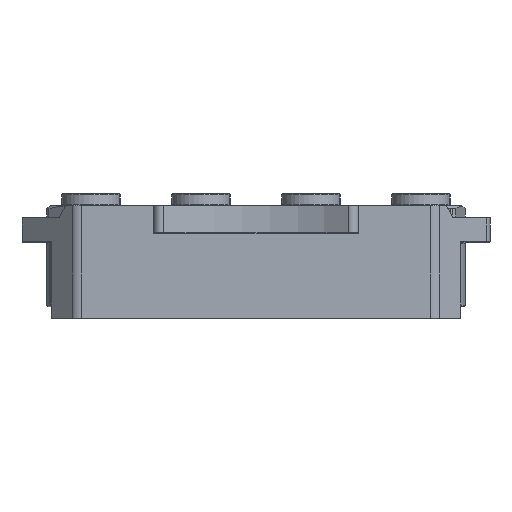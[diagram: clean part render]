
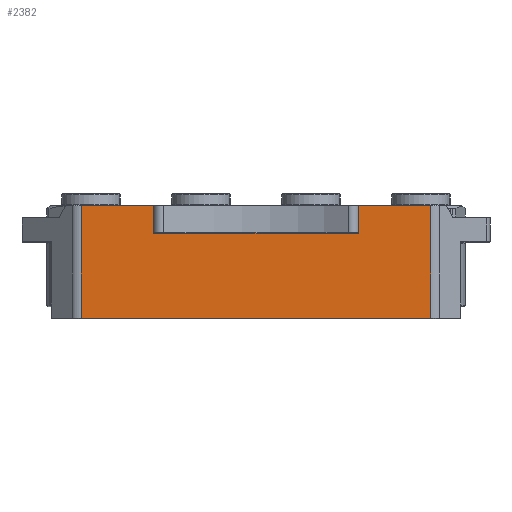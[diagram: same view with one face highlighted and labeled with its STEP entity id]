
A CAD part, front view. The second image highlights one B-rep face of the part: STEP entity #2382.
In plain terms, the highlighted planar face has unit normal (0, -1, 0).
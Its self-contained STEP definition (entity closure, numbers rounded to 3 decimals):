
#2382=ADVANCED_FACE('',(#4085),#3564,.T.);
#3564=PLANE('',#19819);
#4085=FACE_OUTER_BOUND('',#5212,.T.);
#5212=EDGE_LOOP('',(#6610,#6611,#6612,#6613,#6614,#6615,#6616,#6617,#6618,
#6619));
#6610=ORIENTED_EDGE('',*,*,#14115,.T.);
#6611=ORIENTED_EDGE('',*,*,#14116,.T.);
#6612=ORIENTED_EDGE('',*,*,#14117,.T.);
#6613=ORIENTED_EDGE('',*,*,#14118,.T.);
#6614=ORIENTED_EDGE('',*,*,#14119,.F.);
#6615=ORIENTED_EDGE('',*,*,#14120,.T.);
#6616=ORIENTED_EDGE('',*,*,#14121,.T.);
#6617=ORIENTED_EDGE('',*,*,#14122,.T.);
#6618=ORIENTED_EDGE('',*,*,#14123,.T.);
#6619=ORIENTED_EDGE('',*,*,#14124,.T.);
#12384=VERTEX_POINT('',#29072);
#12385=VERTEX_POINT('',#29073);
#12386=VERTEX_POINT('',#29075);
#12387=VERTEX_POINT('',#29077);
#12388=VERTEX_POINT('',#29079);
#12389=VERTEX_POINT('',#29081);
#12390=VERTEX_POINT('',#29083);
#12391=VERTEX_POINT('',#29085);
#12392=VERTEX_POINT('',#29087);
#12393=VERTEX_POINT('',#29089);
#14115=EDGE_CURVE('',#12384,#12385,#16989,.T.);
#14116=EDGE_CURVE('',#12385,#12386,#16990,.T.);
#14117=EDGE_CURVE('',#12386,#12387,#16991,.T.);
#14118=EDGE_CURVE('',#12387,#12388,#16992,.T.);
#14119=EDGE_CURVE('',#12389,#12388,#16993,.T.);
#14120=EDGE_CURVE('',#12389,#12390,#16994,.T.);
#14121=EDGE_CURVE('',#12390,#12391,#16995,.T.);
#14122=EDGE_CURVE('',#12391,#12392,#16996,.T.);
#14123=EDGE_CURVE('',#12392,#12393,#16997,.T.);
#14124=EDGE_CURVE('',#12393,#12384,#16998,.T.);
#16989=LINE('',#29071,#18433);
#16990=LINE('',#29074,#18434);
#16991=LINE('',#29076,#18435);
#16992=LINE('',#29078,#18436);
#16993=LINE('',#29080,#18437);
#16994=LINE('',#29082,#18438);
#16995=LINE('',#29084,#18439);
#16996=LINE('',#29086,#18440);
#16997=LINE('',#29088,#18441);
#16998=LINE('',#29090,#18442);
#18433=VECTOR('',#22510,1.);
#18434=VECTOR('',#22511,1.);
#18435=VECTOR('',#22512,1.);
#18436=VECTOR('',#22513,1.);
#18437=VECTOR('',#22514,1.);
#18438=VECTOR('',#22515,1.);
#18439=VECTOR('',#22516,1.);
#18440=VECTOR('',#22517,1.);
#18441=VECTOR('',#22518,1.);
#18442=VECTOR('',#22519,1.);
#19819=AXIS2_PLACEMENT_3D('',#29091,#22520,#22521);
#22510=DIRECTION('',(0.,0.,-1.));
#22511=DIRECTION('',(1.,0.,0.));
#22512=DIRECTION('',(0.,0.,1.));
#22513=DIRECTION('',(-1.,0.,0.));
#22514=DIRECTION('',(0.,0.,1.));
#22515=DIRECTION('',(-0.707,0.,-0.707));
#22516=DIRECTION('',(-1.,0.,0.));
#22517=DIRECTION('',(-0.707,0.,0.707));
#22518=DIRECTION('',(0.,0.,1.));
#22519=DIRECTION('',(-1.,0.,0.));
#22520=DIRECTION('',(0.,-1.,0.));
#22521=DIRECTION('',(0.,0.,1.));
#29071=CARTESIAN_POINT('',(-81.015,-30.,-52.6));
#29072=CARTESIAN_POINT('',(-81.015,-30.,-0.2));
#29073=CARTESIAN_POINT('',(-81.015,-30.,-52.3));
#29074=CARTESIAN_POINT('',(81.015,-30.,-52.3));
#29075=CARTESIAN_POINT('',(81.015,-30.,-52.3));
#29076=CARTESIAN_POINT('',(81.015,-30.,0.));
#29077=CARTESIAN_POINT('',(81.015,-30.,-0.2));
#29078=CARTESIAN_POINT('',(-108.5,-30.,-0.2));
#29079=CARTESIAN_POINT('',(47.5,-30.,-0.2));
#29080=CARTESIAN_POINT('',(47.5,-30.,-13.));
#29081=CARTESIAN_POINT('',(47.5,-30.,-12.8));
#29082=CARTESIAN_POINT('',(47.5,-30.,-12.8));
#29083=CARTESIAN_POINT('',(47.3,-30.,-13.));
#29084=CARTESIAN_POINT('',(-47.5,-30.,-13.));
#29085=CARTESIAN_POINT('',(-47.3,-30.,-13.));
#29086=CARTESIAN_POINT('',(-47.5,-30.,-12.8));
#29087=CARTESIAN_POINT('',(-47.5,-30.,-12.8));
#29088=CARTESIAN_POINT('',(-47.5,-30.,-13.));
#29089=CARTESIAN_POINT('',(-47.5,-30.,-0.2));
#29090=CARTESIAN_POINT('',(-108.5,-30.,-0.2));
#29091=CARTESIAN_POINT('',(-108.5,-30.,-52.6));
